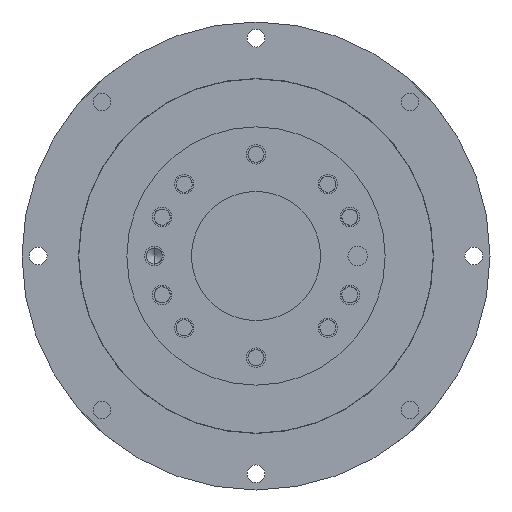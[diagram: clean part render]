
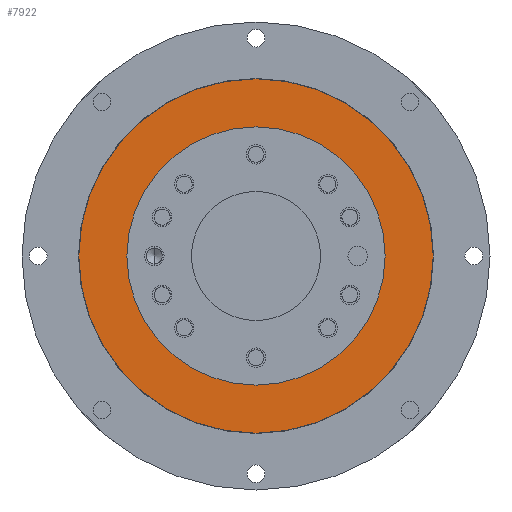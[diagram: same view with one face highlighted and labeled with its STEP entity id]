
A CAD part, front view. The second image highlights one B-rep face of the part: STEP entity #7922.
In plain terms, the highlighted planar face has unit normal (0, -1, 0).
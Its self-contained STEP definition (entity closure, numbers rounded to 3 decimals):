
#45 = CARTESIAN_POINT ( 'NONE',  ( 0., -71.5, 0. ) ) ;
#46 = DIRECTION ( 'NONE',  ( 0., 1., 0. ) ) ;
#47 = DIRECTION ( 'NONE',  ( 0., 0., -1. ) ) ;
#736 = CARTESIAN_POINT ( 'NONE',  ( 0., -71.5, 0. ) ) ;
#737 = DIRECTION ( 'NONE',  ( 0., 1., 0. ) ) ;
#738 = DIRECTION ( 'NONE',  ( 0., 0., -1. ) ) ;
#1326 = ORIENTED_EDGE ( 'NONE', *, *, #7316, .T. ) ;
#1374 = ORIENTED_EDGE ( 'NONE', *, *, #7817, .T. ) ;
#1387 = ORIENTED_EDGE ( 'NONE', *, *, #8670, .F. ) ;
#1397 = ORIENTED_EDGE ( 'NONE', *, *, #7346, .F. ) ;
#1867 = VERTEX_POINT ( 'NONE', #2008 ) ;
#2008 = CARTESIAN_POINT ( 'NONE',  ( 0., -71.5, 40. ) ) ;
#2225 = CARTESIAN_POINT ( 'NONE',  ( 0., -71.5, -40. ) ) ;
#2515 = CIRCLE ( 'NONE', #2524, 40. ) ;
#2524 = AXIS2_PLACEMENT_3D ( 'NONE', #736, #737, #738 ) ;
#2680 = AXIS2_PLACEMENT_3D ( 'NONE', #8422, #8423, #8424 ) ;
#2681 = CIRCLE ( 'NONE', #2680, 40. ) ;
#2758 = CIRCLE ( 'NONE', #2761, 54.9 ) ;
#2761 = AXIS2_PLACEMENT_3D ( 'NONE', #45, #46, #47 ) ;
#2881 = AXIS2_PLACEMENT_3D ( 'NONE', #5032, #5029, #5037 ) ;
#3241 = CIRCLE ( 'NONE', #3244, 54.9 ) ;
#3244 = AXIS2_PLACEMENT_3D ( 'NONE', #5374, #5375, #5376 ) ;
#3400 = VERTEX_POINT ( 'NONE', #2225 ) ;
#5027 = FACE_OUTER_BOUND ( 'NONE', #7021, .T. ) ;
#5029 = DIRECTION ( 'NONE',  ( 0., -1., 0. ) ) ;
#5032 = CARTESIAN_POINT ( 'NONE',  ( 0., -71.5, 0. ) ) ;
#5033 = FACE_BOUND ( 'NONE', #7080, .T. ) ;
#5035 = PLANE ( 'NONE',  #2881 ) ;
#5037 = DIRECTION ( 'NONE',  ( 0., 0., -1. ) ) ;
#5374 = CARTESIAN_POINT ( 'NONE',  ( 0., -71.5, 0. ) ) ;
#5375 = DIRECTION ( 'NONE',  ( 0., 1., 0. ) ) ;
#5376 = DIRECTION ( 'NONE',  ( 0., 0., -1. ) ) ;
#7021 = EDGE_LOOP ( 'NONE', ( #1387, #1397 ) ) ;
#7080 = EDGE_LOOP ( 'NONE', ( #1374, #1326 ) ) ;
#7316 = EDGE_CURVE ( 'NONE', #1867, #3400, #2681, .T. ) ;
#7346 = EDGE_CURVE ( 'NONE', #7477, #7676, #2758, .T. ) ;
#7477 = VERTEX_POINT ( 'NONE', #8870 ) ;
#7676 = VERTEX_POINT ( 'NONE', #8966 ) ;
#7817 = EDGE_CURVE ( 'NONE', #3400, #1867, #2515, .T. ) ;
#7922 = ADVANCED_FACE ( 'NONE', ( #5033, #5027 ), #5035, .T. ) ;
#8422 = CARTESIAN_POINT ( 'NONE',  ( 0., -71.5, 0. ) ) ;
#8423 = DIRECTION ( 'NONE',  ( 0., 1., 0. ) ) ;
#8424 = DIRECTION ( 'NONE',  ( 0., 0., -1. ) ) ;
#8670 = EDGE_CURVE ( 'NONE', #7676, #7477, #3241, .T. ) ;
#8870 = CARTESIAN_POINT ( 'NONE',  ( 0., -71.5, 54.9 ) ) ;
#8966 = CARTESIAN_POINT ( 'NONE',  ( 0., -71.5, -54.9 ) ) ;
